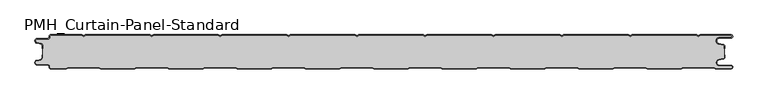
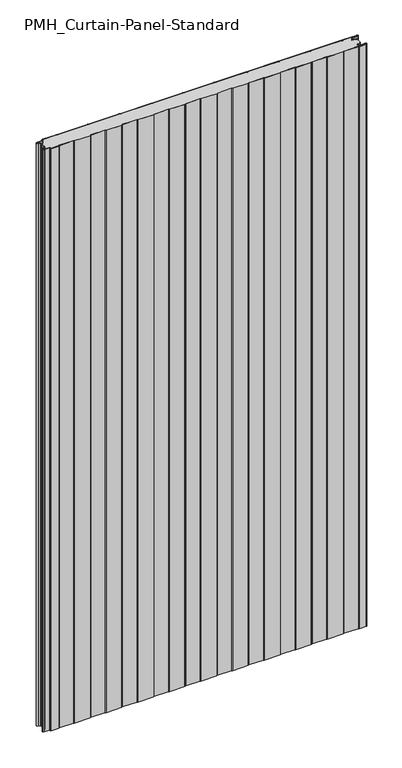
"""IFC4 building model written with IfcOpenShell, lengths in millimetres: plate geometry, PMH_Curtain-Panel-Standard : ACH_PMH_Acoustic-Sectioning-Panel_50M."""

from ifc_helpers import new_model, si_unit, point, frame_2d, origin, origin_with_axes, place, context, project, spatial, polyline, circle_curve, trimmed, segment, composite_curve, outline, extrude, source, transform, mapped, element, save


def pmh_curtain_panel_standard_df710713(model_context):
    return source(origin(), model_context, "Body", "SweptSolid", [
        extrude(outline(composite_curve([segment(trimmed(circle_curve(frame_2d((-502.0, -15.878557)), 2.0), [point((-500.0, -15.878557))], [point((-501.5500978, -13.9298169))], True, "CARTESIAN"), True, "CONTINUOUS"), segment(polyline([(-501.5500978, -13.9298169), (-507.7098239, -12.507732)]), True, "CONTINUOUS"), segment(trimmed(circle_curve(frame_2d((-506.9, -9.0)), 3.6), [point((-507.7098239, -12.507732))], [point((-506.9, -5.4))], False, "CARTESIAN"), True, "CONTINUOUS"), segment(polyline([(-506.9, -5.4), (-491.4, -5.4)]), True, "CONTINUOUS"), segment(trimmed(circle_curve(frame_2d((-491.4, -3.4)), 2.0), [point((-491.4, -5.4))], [point((-489.4, -3.4))], True, "CARTESIAN"), True, "CONTINUOUS"), segment(polyline([(-489.4, -3.4), (-489.4, -2.0)]), True, "CONTINUOUS"), segment(trimmed(circle_curve(frame_2d((-487.4, -2.0)), 2.0), [point((-489.4, -2.0))], [point((-487.4, 0.0))], False, "CARTESIAN"), True, "CONTINUOUS"), segment(polyline([(-487.4, 0.0), (-442.0999995, 0.0), (-439.4, -1.5588455), (-436.7000005, 0.0), (-342.0999995, 0.0), (-339.4, -1.5588455), (-336.7000005, 0.0), (-242.0999995, 0.0), (-239.4, -1.5588455), (-236.7000005, 0.0), (-142.0999995, 0.0), (-139.4, -1.5588455), (-136.7000005, 0.0), (-42.0999995, 0.0), (-39.4, -1.5588455), (-36.7000005, 0.0), (57.9000005, 0.0), (60.6, -1.5588455), (63.2999995, 0.0), (157.9000005, 0.0), (160.6, -1.5588455), (163.2999995, 0.0), (257.9000005, 0.0), (260.6, -1.5588455), (263.2999995, 0.0), (357.9000005, 0.0), (360.6, -1.5588455), (363.2999995, 0.0), (457.9000005, 0.0), (460.6, -1.5588455), (463.2999995, 0.0), (508.1, 0.0)]), True, "CONTINUOUS"), segment(trimmed(circle_curve(frame_2d((508.1, -2.5)), 2.5), [point((508.1, 0.0))], [point((508.1, -5.0))], False, "CARTESIAN"), True, "CONTINUOUS"), segment(polyline([(508.1, -5.0), (491.1, -5.0)]), True, "CONTINUOUS"), segment(trimmed(circle_curve(frame_2d((491.1, -9.0)), 4.0), [point((491.1, -5.0))], [point((490.405407, -12.939231))], True, "CARTESIAN"), True, "CONTINUOUS"), segment(polyline([(490.405407, -12.939231), (496.8514855, -14.0758491)]), True, "CONTINUOUS"), segment(trimmed(circle_curve(frame_2d((496.4, -16.6363492)), 2.6), [point((496.8514855, -14.0758491))], [point((499.0, -16.6363492))], False, "CARTESIAN"), True, "CONTINUOUS"), segment(polyline([(499.0, -16.6363492), (499.0, -20.0), (498.2, -20.0), (498.2, -16.6363492)]), True, "CONTINUOUS"), segment(trimmed(circle_curve(frame_2d((496.4, -16.6363492)), 1.8), [point((498.2, -16.6363492))], [point((496.7125669, -14.8636953))], True, "CARTESIAN"), True, "CONTINUOUS"), segment(polyline([(496.7125669, -14.8636953), (490.2664884, -13.7270772)]), True, "CONTINUOUS"), segment(trimmed(circle_curve(frame_2d((491.1, -9.0)), 4.8), [point((490.2664884, -13.7270772))], [point((491.1, -4.2))], False, "CARTESIAN"), True, "CONTINUOUS"), segment(polyline([(491.1, -4.2), (508.1, -4.2)]), True, "CONTINUOUS"), segment(trimmed(circle_curve(frame_2d((508.1, -2.5)), 1.7), [point((508.1, -4.2))], [point((508.1, -0.8))], True, "CARTESIAN"), True, "CONTINUOUS"), segment(polyline([(508.1, -0.8), (463.5143588, -0.8), (460.6, -2.482606), (457.6856412, -0.8), (363.5143588, -0.8), (360.6, -2.482606), (357.6856412, -0.8), (263.5143588, -0.8), (260.6, -2.482606), (257.6856412, -0.8), (163.5143588, -0.8), (160.6, -2.482606), (157.6856412, -0.8), (63.5143588, -0.8), (60.6, -2.482606), (57.6856412, -0.8), (-36.4856412, -0.8), (-39.4, -2.482606), (-42.3143588, -0.8), (-136.4856412, -0.8), (-139.4, -2.482606), (-142.3143588, -0.8), (-236.4856412, -0.8), (-239.4, -2.482606), (-242.3143588, -0.8), (-336.4856412, -0.8), (-339.4, -2.482606), (-342.3143588, -0.8), (-436.4856412, -0.8), (-439.4, -2.482606), (-442.3143588, -0.8), (-487.4, -0.8)]), True, "CONTINUOUS"), segment(trimmed(circle_curve(frame_2d((-487.4, -2.0)), 1.2), [point((-487.4, -0.8))], [point((-488.6, -2.0))], True, "CARTESIAN"), True, "CONTINUOUS"), segment(polyline([(-488.6, -2.0), (-488.6, -3.4)]), True, "CONTINUOUS"), segment(trimmed(circle_curve(frame_2d((-491.4, -3.4)), 2.8), [point((-488.6, -3.4))], [point((-491.4, -6.2))], False, "CARTESIAN"), True, "CONTINUOUS"), segment(polyline([(-491.4, -6.2), (-506.9, -6.2)]), True, "CONTINUOUS"), segment(trimmed(circle_curve(frame_2d((-506.9, -9.0)), 2.8), [point((-506.9, -6.2))], [point((-507.529863, -11.7282362))], True, "CARTESIAN"), True, "CONTINUOUS"), segment(polyline([(-507.529863, -11.7282362), (-501.370137, -13.150321)]), True, "CONTINUOUS"), segment(trimmed(circle_curve(frame_2d((-502.0, -15.878557)), 2.8), [point((-501.370137, -13.150321))], [point((-499.2, -15.878557))], False, "CARTESIAN"), True, "CONTINUOUS"), segment(polyline([(-499.2, -15.878557), (-499.2, -20.0), (-500.0, -20.0), (-500.0, -15.878557)]), True, "CONTINUOUS")], self_intersect=False)), origin_with_axes(), (0.0, 0.0, 1.0), 1945.7507136),
        extrude(outline(composite_curve([segment(polyline([(-499.2, -34.121443), (-499.2, -15.8785573)]), True, "CONTINUOUS"), segment(trimmed(circle_curve(frame_2d((-502.0, -15.8785573)), 2.8), [point((-499.2, -15.8785573))], [point((-501.370137, -13.1503212))], True, "CARTESIAN"), True, "CONTINUOUS"), segment(polyline([(-501.370137, -13.1503212), (-507.5298631, -11.7282362)]), True, "CONTINUOUS"), segment(trimmed(circle_curve(frame_2d((-506.9, -9.0)), 2.8), [point((-507.5298631, -11.7282362))], [point((-506.9, -6.2))], False, "CARTESIAN"), True, "CONTINUOUS"), segment(polyline([(-506.9, -6.2), (-491.4000001, -6.2)]), True, "CONTINUOUS"), segment(trimmed(circle_curve(frame_2d((-491.4000001, -3.4)), 2.8), [point((-491.4000001, -6.2))], [point((-488.6000001, -3.4))], True, "CARTESIAN"), True, "CONTINUOUS"), segment(polyline([(-488.6000001, -3.4), (-488.6000001, -2.0)]), True, "CONTINUOUS"), segment(trimmed(circle_curve(frame_2d((-487.4000001, -2.0)), 1.2), [point((-488.6000001, -2.0))], [point((-487.4000001, -0.8))], False, "CARTESIAN"), True, "CONTINUOUS"), segment(polyline([(-487.4000001, -0.8), (-442.3143589, -0.8), (-439.4000001, -2.482606), (-436.4856412, -0.8), (-342.3143589, -0.8), (-339.4000001, -2.482606), (-336.4856412, -0.8), (-242.3143589, -0.8), (-239.4000001, -2.482606), (-236.4856412, -0.8), (-142.3143589, -0.8), (-139.4000001, -2.482606), (-136.4856412, -0.8), (-42.3143589, -0.8), (-39.4000001, -2.482606), (-36.4856412, -0.8), (57.6856411, -0.8), (60.5999999, -2.482606), (63.5143588, -0.8), (157.6856411, -0.8), (160.5999999, -2.482606), (163.5143588, -0.8), (257.6856411, -0.8), (260.5999999, -2.482606), (263.5143588, -0.8), (357.6856411, -0.8), (360.5999999, -2.482606), (363.5143588, -0.8), (457.6856411, -0.8), (460.5999999, -2.482606), (463.5143587, -0.8), (508.1, -0.8)]), True, "CONTINUOUS"), segment(trimmed(circle_curve(frame_2d((508.1, -2.5)), 1.7), [point((508.1, -0.8))], [point((508.1, -4.2))], False, "CARTESIAN"), True, "CONTINUOUS"), segment(polyline([(508.1, -4.2), (491.1, -4.2)]), True, "CONTINUOUS"), segment(trimmed(circle_curve(frame_2d((491.1, -9.0)), 4.8), [point((491.1, -4.2))], [point((490.2664883, -13.7270771))], True, "CARTESIAN"), True, "CONTINUOUS"), segment(polyline([(490.2664883, -13.7270771), (496.7125668, -14.8636953)]), True, "CONTINUOUS"), segment(trimmed(circle_curve(frame_2d((496.4, -16.6363492)), 1.8), [point((496.7125668, -14.8636953))], [point((498.2, -16.6363492))], False, "CARTESIAN"), True, "CONTINUOUS"), segment(polyline([(498.2, -16.6363492), (498.2, -33.363652)]), True, "CONTINUOUS"), segment(trimmed(circle_curve(frame_2d((496.4, -33.363652)), 1.8), [point((498.2, -33.363652))], [point((496.7125666, -35.1363059))], False, "CARTESIAN"), True, "CONTINUOUS"), segment(polyline([(496.7125666, -35.1363059), (490.266489, -36.272923)]), True, "CONTINUOUS"), segment(trimmed(circle_curve(frame_2d((491.1, -41.0000002)), 4.7999999), [point((490.266489, -36.272923))], [point((491.1, -45.8000001))], True, "CARTESIAN"), True, "CONTINUOUS"), segment(polyline([(491.1, -45.8000001), (508.1, -45.8000001)]), True, "CONTINUOUS"), segment(trimmed(circle_curve(frame_2d((508.1, -47.5)), 1.7), [point((508.1, -45.8000001))], [point((508.1, -49.2))], False, "CARTESIAN"), True, "CONTINUOUS"), segment(polyline([(508.1, -49.2), (485.8105122, -49.2), (483.2124346, -47.7), (437.9837184, -47.7), (435.3856408, -49.2), (385.8105122, -49.2), (383.2124346, -47.7), (337.9837184, -47.7), (335.3856408, -49.2), (285.8105122, -49.2), (283.2124346, -47.7), (237.9837184, -47.7), (235.3856408, -49.2), (185.8105122, -49.2), (183.2124346, -47.7), (137.9837184, -47.7), (135.3856408, -49.2), (85.8105122, -49.2), (83.2124346, -47.7), (37.9837184, -47.7), (35.3856408, -49.2), (-14.1894878, -49.2), (-16.7875654, -47.7), (-62.0162816, -47.7), (-64.6143592, -49.2), (-114.1894878, -49.2), (-116.7875654, -47.7), (-162.0162816, -47.7), (-164.6143592, -49.2), (-214.1894878, -49.2), (-216.7875654, -47.7), (-262.0162816, -47.7), (-264.6143592, -49.2), (-314.1894878, -49.2), (-316.7875654, -47.7), (-362.0162816, -47.7), (-364.6143592, -49.2), (-414.1894878, -49.2), (-416.7875654, -47.7), (-462.0162816, -47.7), (-464.6143592, -49.2), (-487.4, -49.2)]), True, "CONTINUOUS"), segment(trimmed(circle_curve(frame_2d((-487.4, -48.0)), 1.2), [point((-487.4, -49.2))], [point((-488.6, -48.0))], False, "CARTESIAN"), True, "CONTINUOUS"), segment(polyline([(-488.6, -48.0), (-488.6, -46.5999998)]), True, "CONTINUOUS"), segment(trimmed(circle_curve(frame_2d((-491.4, -46.5999998)), 2.8), [point((-488.6, -46.5999998))], [point((-491.4, -43.7999998))], True, "CARTESIAN"), True, "CONTINUOUS"), segment(polyline([(-491.4, -43.7999998), (-506.9, -43.7999998)]), True, "CONTINUOUS"), segment(trimmed(circle_curve(frame_2d((-506.9, -41.0)), 2.7999998), [point((-506.9, -43.7999998))], [point((-507.529863, -38.271764))], False, "CARTESIAN"), True, "CONTINUOUS"), segment(polyline([(-507.529863, -38.271764), (-501.370137, -36.8496792)]), True, "CONTINUOUS"), segment(trimmed(circle_curve(frame_2d((-502.0, -34.121443)), 2.8), [point((-501.370137, -36.8496792))], [point((-499.2, -34.121443))], True, "CARTESIAN"), True, "CONTINUOUS")], self_intersect=False)), origin_with_axes(), (0.0, 0.0, 1.0), 1945.7507136),
        extrude(outline(composite_curve([segment(trimmed(circle_curve(frame_2d((-487.4, -48.0)), 2.0), [point((-487.4, -50.0))], [point((-489.4, -48.0))], False, "CARTESIAN"), True, "CONTINUOUS"), segment(polyline([(-489.4, -48.0), (-489.4, -46.6)]), True, "CONTINUOUS"), segment(trimmed(circle_curve(frame_2d((-491.4, -46.6)), 2.0), [point((-489.4, -46.6))], [point((-491.4, -44.6))], True, "CARTESIAN"), True, "CONTINUOUS"), segment(polyline([(-491.4, -44.6), (-506.9, -44.6)]), True, "CONTINUOUS"), segment(trimmed(circle_curve(frame_2d((-506.9, -41.0)), 3.6), [point((-506.9, -44.6))], [point((-507.7098239, -37.4922678))], False, "CARTESIAN"), True, "CONTINUOUS"), segment(polyline([(-507.7098239, -37.4922678), (-501.5500979, -36.070183)]), True, "CONTINUOUS"), segment(trimmed(circle_curve(frame_2d((-502.0, -34.121443)), 2.0), [point((-501.5500979, -36.070183))], [point((-500.0, -34.121443))], True, "CARTESIAN"), True, "CONTINUOUS"), segment(polyline([(-500.0, -34.121443), (-500.0, -30.0), (-499.2, -30.0), (-499.2, -34.121443)]), True, "CONTINUOUS"), segment(trimmed(circle_curve(frame_2d((-502.0, -34.121443)), 2.8), [point((-499.2, -34.121443))], [point((-501.370137, -36.8496792))], False, "CARTESIAN"), True, "CONTINUOUS"), segment(polyline([(-501.370137, -36.8496792), (-507.529863, -38.271764)]), True, "CONTINUOUS"), segment(trimmed(circle_curve(frame_2d((-506.9, -41.0)), 2.8), [point((-507.529863, -38.271764))], [point((-506.9, -43.8))], True, "CARTESIAN"), True, "CONTINUOUS"), segment(polyline([(-506.9, -43.8), (-491.4, -43.8)]), True, "CONTINUOUS"), segment(trimmed(circle_curve(frame_2d((-491.4, -46.6)), 2.8), [point((-491.4, -43.8))], [point((-488.6, -46.6))], False, "CARTESIAN"), True, "CONTINUOUS"), segment(polyline([(-488.6, -46.6), (-488.6, -48.0)]), True, "CONTINUOUS"), segment(trimmed(circle_curve(frame_2d((-487.4, -48.0)), 1.2), [point((-488.6, -48.0))], [point((-487.4, -49.2))], True, "CARTESIAN"), True, "CONTINUOUS"), segment(polyline([(-487.4, -49.2), (-464.6143592, -49.2), (-462.0162816, -47.7), (-416.7875654, -47.7), (-414.1894878, -49.2), (-364.6143592, -49.2), (-362.0162816, -47.7), (-316.7875654, -47.7), (-314.1894878, -49.2), (-264.6143592, -49.2), (-262.0162816, -47.7), (-216.7875654, -47.7), (-214.1894878, -49.2), (-164.6143592, -49.2), (-162.0162816, -47.7), (-116.7875654, -47.7), (-114.1894878, -49.2), (-64.6143592, -49.2), (-62.0162816, -47.7), (-16.7875654, -47.7), (-14.1894878, -49.2), (35.3856408, -49.2), (37.9837184, -47.7), (83.2124346, -47.7), (85.8105122, -49.2), (135.3856408, -49.2), (137.9837184, -47.7), (183.2124346, -47.7), (185.8105122, -49.2), (235.3856408, -49.2), (237.9837184, -47.7), (283.2124346, -47.7), (285.8105122, -49.2), (335.3856408, -49.2), (337.9837184, -47.7), (383.2124346, -47.7), (385.8105122, -49.2), (435.3856408, -49.2), (437.9837184, -47.7), (483.2124346, -47.7), (485.8105122, -49.2), (508.1, -49.2)]), True, "CONTINUOUS"), segment(trimmed(circle_curve(frame_2d((508.1, -47.5)), 1.7), [point((508.1, -49.2))], [point((508.1, -45.8))], True, "CARTESIAN"), True, "CONTINUOUS"), segment(polyline([(508.1, -45.8), (491.1, -45.8)]), True, "CONTINUOUS"), segment(trimmed(circle_curve(frame_2d((491.1, -41.0)), 4.8), [point((491.1, -45.8))], [point((490.266489, -36.2729227))], False, "CARTESIAN"), True, "CONTINUOUS"), segment(polyline([(490.266489, -36.2729227), (496.7125666, -35.1363058)]), True, "CONTINUOUS"), segment(trimmed(circle_curve(frame_2d((496.4, -33.363652)), 1.8), [point((496.7125666, -35.1363058))], [point((498.2, -33.363652))], True, "CARTESIAN"), True, "CONTINUOUS"), segment(polyline([(498.2, -33.363652), (498.2, -30.0), (499.0, -30.0), (499.0, -33.363652)]), True, "CONTINUOUS"), segment(trimmed(circle_curve(frame_2d((496.4, -33.363652)), 2.6), [point((499.0, -33.363652))], [point((496.8514851, -35.9241522))], False, "CARTESIAN"), True, "CONTINUOUS"), segment(polyline([(496.8514851, -35.9241522), (490.4054075, -37.0607691)]), True, "CONTINUOUS"), segment(trimmed(circle_curve(frame_2d((491.1, -41.0)), 4.0), [point((490.4054075, -37.0607691))], [point((491.1, -45.0))], True, "CARTESIAN"), True, "CONTINUOUS"), segment(polyline([(491.1, -45.0), (508.1, -45.0)]), True, "CONTINUOUS"), segment(trimmed(circle_curve(frame_2d((508.1, -47.5)), 2.5), [point((508.1, -45.0))], [point((508.1, -50.0))], False, "CARTESIAN"), True, "CONTINUOUS"), segment(polyline([(508.1, -50.0), (485.5961529, -50.0), (482.9980753, -48.5), (438.1980777, -48.5), (435.6000001, -50.0), (385.5961529, -50.0), (382.9980753, -48.5), (338.1980777, -48.5), (335.6000001, -50.0), (285.5961529, -50.0), (282.9980753, -48.5), (238.1980777, -48.5), (235.6000001, -50.0), (185.5961529, -50.0), (182.9980753, -48.5), (138.1980777, -48.5), (135.6000001, -50.0), (85.5961529, -50.0), (82.9980753, -48.5), (38.1980777, -48.5), (35.6000001, -50.0), (-14.4038471, -50.0), (-17.0019247, -48.5), (-61.8019223, -48.5), (-64.3999999, -50.0), (-114.4038471, -50.0), (-117.0019247, -48.5), (-161.8019223, -48.5), (-164.3999999, -50.0), (-214.4038471, -50.0), (-217.0019247, -48.5), (-261.8019223, -48.5), (-264.3999999, -50.0), (-314.4038471, -50.0), (-317.0019247, -48.5), (-361.8019223, -48.5), (-364.3999999, -50.0), (-414.4038471, -50.0), (-417.0019247, -48.5), (-461.8019223, -48.5), (-464.3999999, -50.0), (-487.4, -50.0)]), True, "CONTINUOUS")], self_intersect=False)), origin_with_axes(), (0.0, 0.0, 1.0), 1945.7507136),
    ])


if __name__ == "__main__":
    model = new_model("IFC4")
    model_context = context("Model", 3, world=origin())
    ifc_project = project(units=[si_unit("LENGTHUNIT", "METRE", prefix="MILLI")], contexts=[model_context])
    site = spatial("IfcSite", under=ifc_project)
    building = spatial("IfcBuilding", under=site)
    placement = place(None, origin())
    pmh_curtain_panel_standard_shape = pmh_curtain_panel_standard_df710713(model_context)
    element("IfcPlate", 1, ObjectType="PMH_Curtain-Panel-Standard : ACH_PMH_Acoustic-Sectioning-Panel_50M", at=placement, inside=building, context=model_context, shape_type="MappedRepresentation", body=[
        mapped(pmh_curtain_panel_standard_shape, transform((0.0, 0.0, 0.0), x_axis=(1.0, 0.0, 0.0), y_axis=(0.0, 1.0, 0.0), z_axis=(0.0, 0.0, 1.0))),
    ])
    save(model, "model.ifc")
